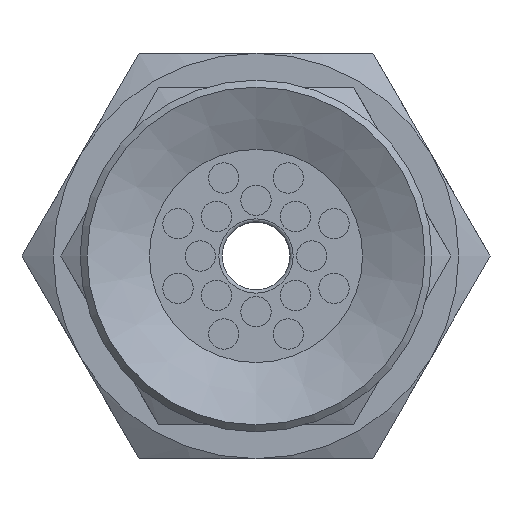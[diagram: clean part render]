
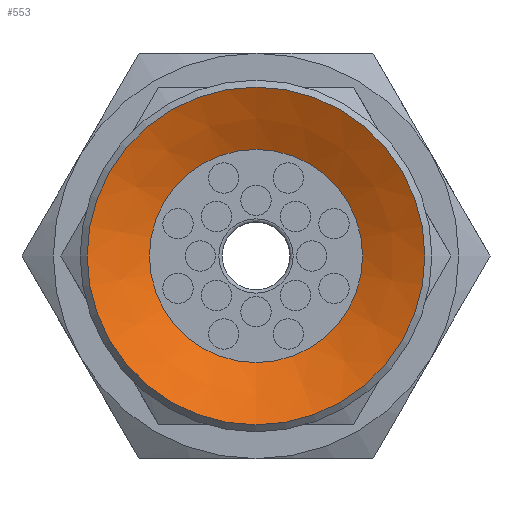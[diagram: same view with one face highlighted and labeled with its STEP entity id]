
A CAD part, front view. The second image highlights one B-rep face of the part: STEP entity #553.
In plain terms, the highlighted conical face has half-angle 64 degrees and reference radius 5 mm.
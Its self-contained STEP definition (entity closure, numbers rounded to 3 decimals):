
#553=ADVANCED_FACE('',(#842,#843),#844,.F.);
#842=FACE_BOUND('',#1217,.T.);
#843=FACE_OUTER_BOUND('',#1218,.T.);
#844=CONICAL_SURFACE('',#1219,5.0,1.117);
#1217=EDGE_LOOP('',(#1965));
#1218=EDGE_LOOP('',(#1966));
#1219=AXIS2_PLACEMENT_3D('',#1967,#1968,#1969);
#1965=ORIENTED_EDGE('',*,*,#2345,.T.);
#1966=ORIENTED_EDGE('',*,*,#2346,.F.);
#1967=CARTESIAN_POINT('',(0.0,0.,0.));
#1968=DIRECTION('',(0.0,0.,-1.0));
#1969=DIRECTION('',(0.0,1.0,0.));
#2345=EDGE_CURVE('',#2672,#2672,#2673,.T.);
#2346=EDGE_CURVE('',#2674,#2674,#2675,.T.);
#2672=VERTEX_POINT('',#3366);
#2673=CIRCLE('',#3367,3.155);
#2674=VERTEX_POINT('',#3368);
#2675=CIRCLE('',#3369,5.0);
#3366=CARTESIAN_POINT('',(0.0,-3.155,0.9));
#3367=AXIS2_PLACEMENT_3D('',#3721,#3722,#3723);
#3368=CARTESIAN_POINT('',(0.0,-5.0,0.));
#3369=AXIS2_PLACEMENT_3D('',#3724,#3725,#3726);
#3721=CARTESIAN_POINT('',(0.0,0.,0.9));
#3722=DIRECTION('',(0.0,0.,1.0));
#3723=DIRECTION('',(0.0,-1.0,0.));
#3724=CARTESIAN_POINT('',(0.0,0.,0.));
#3725=DIRECTION('',(0.0,0.,1.0));
#3726=DIRECTION('',(0.0,-1.0,0.));
